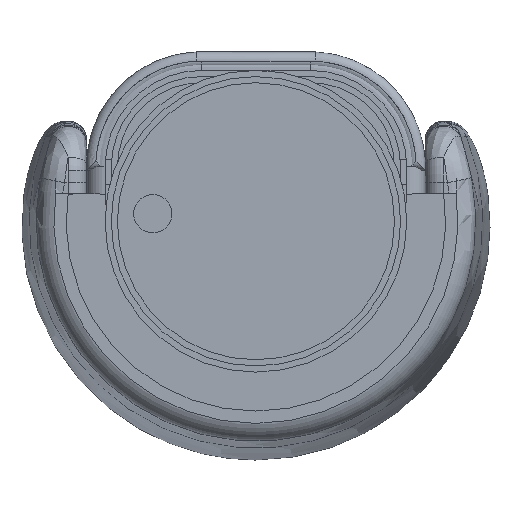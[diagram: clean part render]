
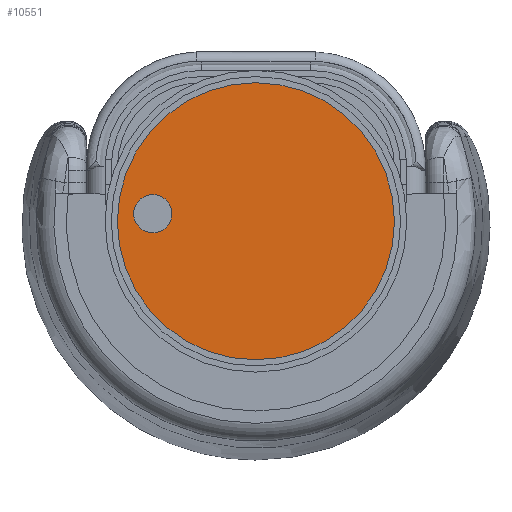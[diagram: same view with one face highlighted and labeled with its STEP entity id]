
A CAD part, front view. The second image highlights one B-rep face of the part: STEP entity #10551.
In plain terms, the highlighted planar face has unit normal (0, -1, 0).
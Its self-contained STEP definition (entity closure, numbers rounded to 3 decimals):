
#391 = CARTESIAN_POINT ( 'NONE',  ( 0., 0., 0. ) ) ;
#659 = EDGE_LOOP ( 'NONE', ( #10643, #13406 ) ) ;
#2690 = DIRECTION ( 'NONE',  ( 0., 0., -1. ) ) ;
#3029 = PLANE ( 'NONE',  #7140 ) ;
#3527 = DIRECTION ( 'NONE',  ( 0., -1., 0. ) ) ;
#5258 = CARTESIAN_POINT ( 'NONE',  ( 0., 0., 0. ) ) ;
#5261 = CARTESIAN_POINT ( 'NONE',  ( 0., 0., -225. ) ) ;
#5556 = AXIS2_PLACEMENT_3D ( 'NONE', #15288, #3527, #16638 ) ;
#5574 = VERTEX_POINT ( 'NONE', #16260 ) ;
#7140 = AXIS2_PLACEMENT_3D ( 'NONE', #391, #10430, #2690 ) ;
#7613 = CIRCLE ( 'NONE', #16012, 225. ) ;
#7984 = DIRECTION ( 'NONE',  ( 0., 0., -1. ) ) ;
#8418 = EDGE_CURVE ( 'NONE', #13657, #5574, #7613, .T. ) ;
#9341 = FACE_OUTER_BOUND ( 'NONE', #659, .T. ) ;
#9626 = CIRCLE ( 'NONE', #5556, 225. ) ;
#10430 = DIRECTION ( 'NONE',  ( 0., -1., 0. ) ) ;
#10551 = ADVANCED_FACE ( 'NONE', ( #9341 ), #3029, .T. ) ;
#10643 = ORIENTED_EDGE ( 'NONE', *, *, #8418, .T. ) ;
#13406 = ORIENTED_EDGE ( 'NONE', *, *, #15043, .T. ) ;
#13657 = VERTEX_POINT ( 'NONE', #5261 ) ;
#14603 = DIRECTION ( 'NONE',  ( 0., -1., 0. ) ) ;
#15043 = EDGE_CURVE ( 'NONE', #5574, #13657, #9626, .T. ) ;
#15288 = CARTESIAN_POINT ( 'NONE',  ( 0., 0., 0. ) ) ;
#16012 = AXIS2_PLACEMENT_3D ( 'NONE', #5258, #14603, #7984 ) ;
#16260 = CARTESIAN_POINT ( 'NONE',  ( 0., 0., 225. ) ) ;
#16638 = DIRECTION ( 'NONE',  ( 0., 0., -1. ) ) ;
